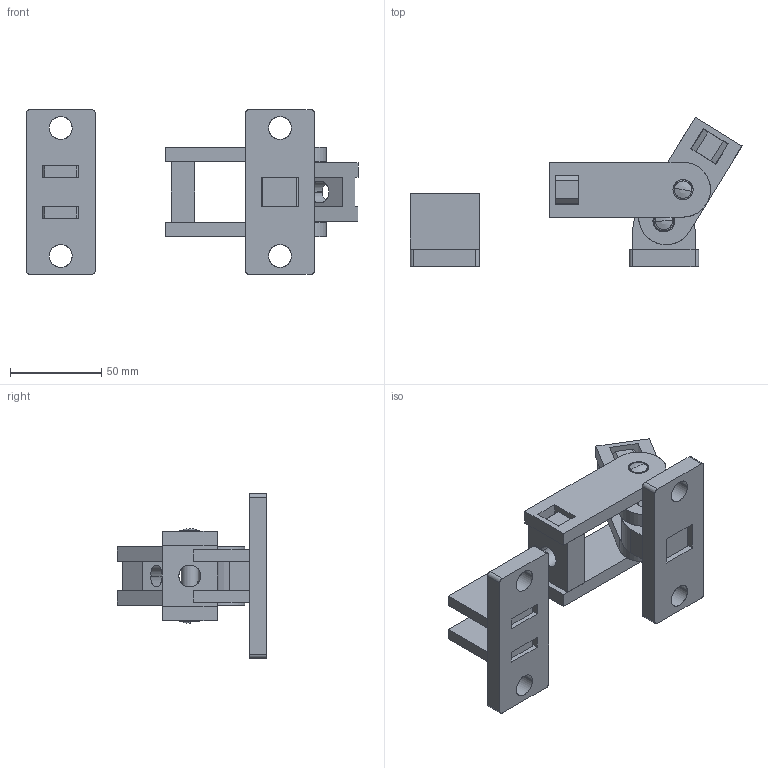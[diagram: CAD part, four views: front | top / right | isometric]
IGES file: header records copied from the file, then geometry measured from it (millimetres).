
Start section: SolidWorks IGES file using analytic representation for surfaces
Global section: file name: C:\Projetos\Grampos\Trincos\KFT-14\KFT-14.igs; native system: SolidWorks 2011; preprocessor: SolidWorks 2011; author: Usuario; date: 110512.123640; units: millimetre
Bounding box: 181.72 x 81.7 x 90 mm (x, y, z)
Surface area: 66470.6 mm2 (no closed solid volume)
Topology: 0 solids, 0 shells, 193 faces, 2554 edges, 2550 vertices
Faces by surface type: bspline 135, revolution 58
